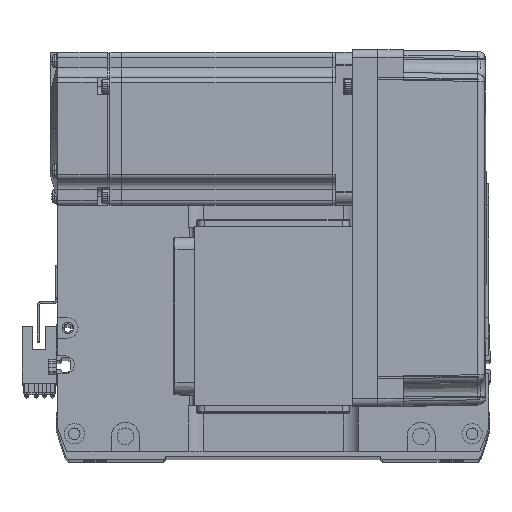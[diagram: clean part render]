
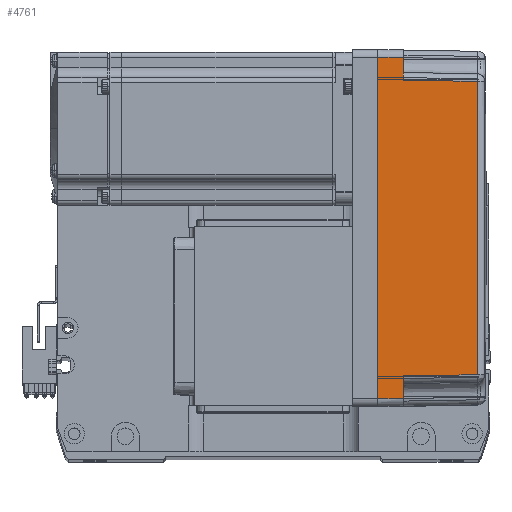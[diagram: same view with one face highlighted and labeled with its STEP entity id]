
A CAD part, top view. The second image highlights one B-rep face of the part: STEP entity #4761.
In plain terms, the highlighted planar face has unit normal (0.018, 0, 1) as drawn and (0, -1, 0.017) by its records, which use the part's own axes.
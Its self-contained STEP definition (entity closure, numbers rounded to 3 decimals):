
#645 = VERTEX_POINT ( 'NONE', #58035 ) ;
#823 = ORIENTED_EDGE ( 'NONE', *, *, #50154, .T. ) ;
#1959 = B_SPLINE_CURVE_WITH_KNOTS ( 'NONE', 3,
 ( #36978, #13017, #31730, #17918 ),
 .UNSPECIFIED., .F., .F.,
 ( 4, 4 ),
 ( 0., 1. ),
 .UNSPECIFIED. ) ;
#2357 = CARTESIAN_POINT ( 'NONE',  ( -66.826, -35.825, 10. ) ) ;
#3870 = VERTEX_POINT ( 'NONE', #33098 ) ;
#4761 = ADVANCED_FACE ( 'NONE', ( #22645 ), #49529, .T. ) ;
#4993 = CARTESIAN_POINT ( 'NONE',  ( 58., -35.825, 10. ) ) ;
#5121 = ORIENTED_EDGE ( 'NONE', *, *, #5938, .T. ) ;
#5486 = EDGE_CURVE ( 'NONE', #40718, #58974, #54155, .T. ) ;
#5880 = DIRECTION ( 'NONE',  ( 0.017, 0.017, 1. ) ) ;
#5938 = EDGE_CURVE ( 'NONE', #46277, #18168, #33779, .T. ) ;
#6543 = ORIENTED_EDGE ( 'NONE', *, *, #23526, .F. ) ;
#8970 = CARTESIAN_POINT ( 'NONE',  ( 70., -35.825, 10. ) ) ;
#9351 = CARTESIAN_POINT ( 'NONE',  ( -57.495, -35.32, 38.985 ) ) ;
#10832 = DIRECTION ( 'NONE',  ( 0., -1., 0.017 ) ) ;
#11105 = VECTOR ( 'NONE', #39938, 1000. ) ;
#13017 = CARTESIAN_POINT ( 'NONE',  ( 19.165, -35.316, 39.181 ) ) ;
#14080 = VERTEX_POINT ( 'NONE', #20478 ) ;
#17189 = ORIENTED_EDGE ( 'NONE', *, *, #5486, .F. ) ;
#17918 = CARTESIAN_POINT ( 'NONE',  ( -57.495, -35.32, 38.985 ) ) ;
#18168 = VERTEX_POINT ( 'NONE', #36852 ) ;
#19292 = VERTEX_POINT ( 'NONE', #34965 ) ;
#19646 = VECTOR ( 'NONE', #38578, 1000. ) ;
#20337 = DIRECTION ( 'NONE',  ( 0., -0.017, -1. ) ) ;
#20478 = CARTESIAN_POINT ( 'NONE',  ( 67., -36., 0. ) ) ;
#22645 = FACE_OUTER_BOUND ( 'NONE', #50338, .T. ) ;
#23029 = AXIS2_PLACEMENT_3D ( 'NONE', #53506, #10832, #20337 ) ;
#23526 = EDGE_CURVE ( 'NONE', #14080, #40718, #49490, .T. ) ;
#23566 = LINE ( 'NONE', #59335, #31073 ) ;
#23701 = VECTOR ( 'NONE', #27939, 1000. ) ;
#26259 = EDGE_CURVE ( 'NONE', #3870, #58974, #30462, .T. ) ;
#27056 = DIRECTION ( 'NONE',  ( -0.017, 0.017, 1. ) ) ;
#27835 = VECTOR ( 'NONE', #27056, 1000. ) ;
#27939 = DIRECTION ( 'NONE',  ( -1., 0., 0. ) ) ;
#29415 = EDGE_CURVE ( 'NONE', #14080, #19292, #46629, .T. ) ;
#30462 = LINE ( 'NONE', #8970, #23701 ) ;
#30776 = VECTOR ( 'NONE', #48065, 1000. ) ;
#31073 = VECTOR ( 'NONE', #55523, 1000. ) ;
#31730 = CARTESIAN_POINT ( 'NONE',  ( -19.165, -35.316, 39.181 ) ) ;
#33098 = CARTESIAN_POINT ( 'NONE',  ( -58., -35.825, 10. ) ) ;
#33613 = ORIENTED_EDGE ( 'NONE', *, *, #29415, .T. ) ;
#33779 = LINE ( 'NONE', #47872, #30776 ) ;
#34957 = EDGE_CURVE ( 'NONE', #19292, #46277, #23566, .T. ) ;
#34965 = CARTESIAN_POINT ( 'NONE',  ( 66.826, -35.825, 10. ) ) ;
#36852 = CARTESIAN_POINT ( 'NONE',  ( 57.495, -35.32, 38.985 ) ) ;
#36978 = CARTESIAN_POINT ( 'NONE',  ( 57.495, -35.32, 38.985 ) ) ;
#38578 = DIRECTION ( 'NONE',  ( -0.017, -0.017, -1. ) ) ;
#38876 = CARTESIAN_POINT ( 'NONE',  ( -66.959, -35.958, 2.39 ) ) ;
#39938 = DIRECTION ( 'NONE',  ( -1., 0., 0. ) ) ;
#40718 = VERTEX_POINT ( 'NONE', #41875 ) ;
#41875 = CARTESIAN_POINT ( 'NONE',  ( -67., -36., 0. ) ) ;
#46277 = VERTEX_POINT ( 'NONE', #4993 ) ;
#46629 = LINE ( 'NONE', #51183, #27835 ) ;
#47872 = CARTESIAN_POINT ( 'NONE',  ( 58., -35.825, 10. ) ) ;
#48065 = DIRECTION ( 'NONE',  ( -0.017, 0.017, 1. ) ) ;
#49490 = LINE ( 'NONE', #59703, #11105 ) ;
#49529 = PLANE ( 'NONE',  #23029 ) ;
#50154 = EDGE_CURVE ( 'NONE', #645, #3870, #58032, .T. ) ;
#50338 = EDGE_LOOP ( 'NONE', ( #33613, #55667, #5121, #62088, #823, #56352, #17189, #6543 ) ) ;
#51183 = CARTESIAN_POINT ( 'NONE',  ( 67., -36., 0. ) ) ;
#52142 = EDGE_CURVE ( 'NONE', #18168, #645, #1959, .T. ) ;
#53419 = VECTOR ( 'NONE', #5880, 1000. ) ;
#53506 = CARTESIAN_POINT ( 'NONE',  ( 70., -36., 0. ) ) ;
#54155 = LINE ( 'NONE', #38876, #53419 ) ;
#55523 = DIRECTION ( 'NONE',  ( -1., 0., 0. ) ) ;
#55667 = ORIENTED_EDGE ( 'NONE', *, *, #34957, .T. ) ;
#56352 = ORIENTED_EDGE ( 'NONE', *, *, #26259, .T. ) ;
#58032 = LINE ( 'NONE', #9351, #19646 ) ;
#58035 = CARTESIAN_POINT ( 'NONE',  ( -57.495, -35.32, 38.985 ) ) ;
#58974 = VERTEX_POINT ( 'NONE', #2357 ) ;
#59335 = CARTESIAN_POINT ( 'NONE',  ( 70., -35.825, 10. ) ) ;
#59703 = CARTESIAN_POINT ( 'NONE',  ( 0., -36., 0. ) ) ;
#62088 = ORIENTED_EDGE ( 'NONE', *, *, #52142, .T. ) ;
